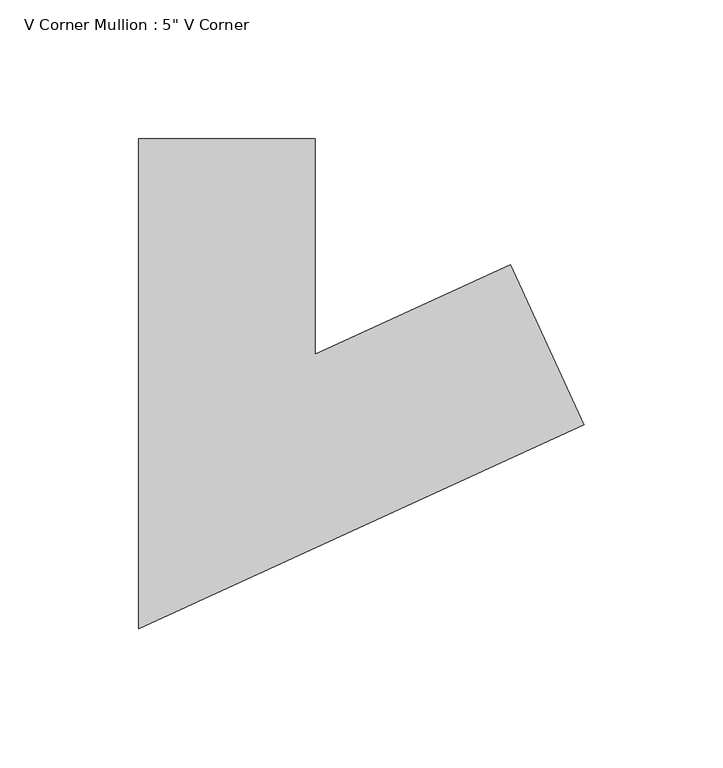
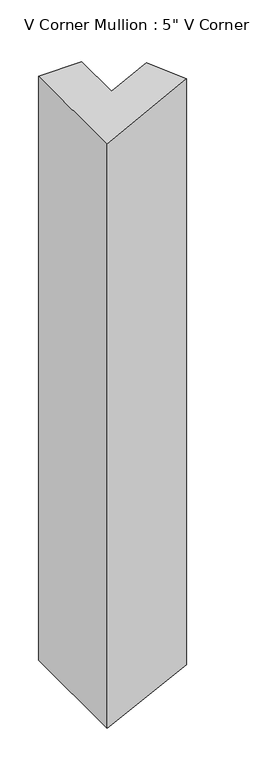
"""IFC4 building model written with IfcOpenShell, lengths in millimetres: member geometry."""

from ifc_helpers import new_model, si_unit, origin, place, context, project, spatial, faceted_brep, source, transform, mapped, element, save


def member_09a87ae0(model_context):
    return source(origin(), model_context, "Body", "Brep", [
        faceted_brep([(61.49523, 18.2208415, 1.0262405), (87.9205542, -39.5195451, 1.4672298), (87.9205542, -39.5195451, -919.2076718), (61.49523, 18.2208415, -919.0186198), (-9.0228811, -14.0523047, -0.150575), (-9.0228811, -14.0523047, -918.5141192), (-9.0228811, 63.5, -0.150575), (-9.0228811, 63.5, -918.5141192), (-72.5228811, 63.5, -1.2102714), (-72.5228811, 63.5, -918.0598276), (-72.5228811, -112.9476953, -1.2102714), (-72.5228811, -112.9476953, -918.0598276)], [[[0, 1, 2, 3]], [[4, 0, 3, 5]], [[6, 4, 5, 7]], [[8, 6, 7, 9]], [[10, 8, 9, 11]], [[1, 10, 11, 2]], [[1, 0, 4, 6, 8, 10]], [[2, 11, 9, 7, 5, 3]]]),
    ])


if __name__ == "__main__":
    model = new_model("IFC4")
    model_context = context("Model", 3, world=origin())
    ifc_project = project(units=[si_unit("LENGTHUNIT", "METRE", prefix="MILLI")], contexts=[model_context])
    site = spatial("IfcSite", under=ifc_project)
    building = spatial("IfcBuilding", under=site)
    placement = place(None, origin())
    member_shape = member_09a87ae0(model_context)
    element("IfcMember", 1, ObjectType="V Corner Mullion : 5\" V Corner", at=placement, inside=building, context=model_context, shape_type="MappedRepresentation", body=[
        mapped(member_shape, transform((0.0, 0.0, 0.0), x_axis=(1.0, 0.0, 0.0), y_axis=(0.0, 1.0, 0.0), z_axis=(0.0, 0.0, 1.0))),
    ])
    save(model, "model.ifc")
